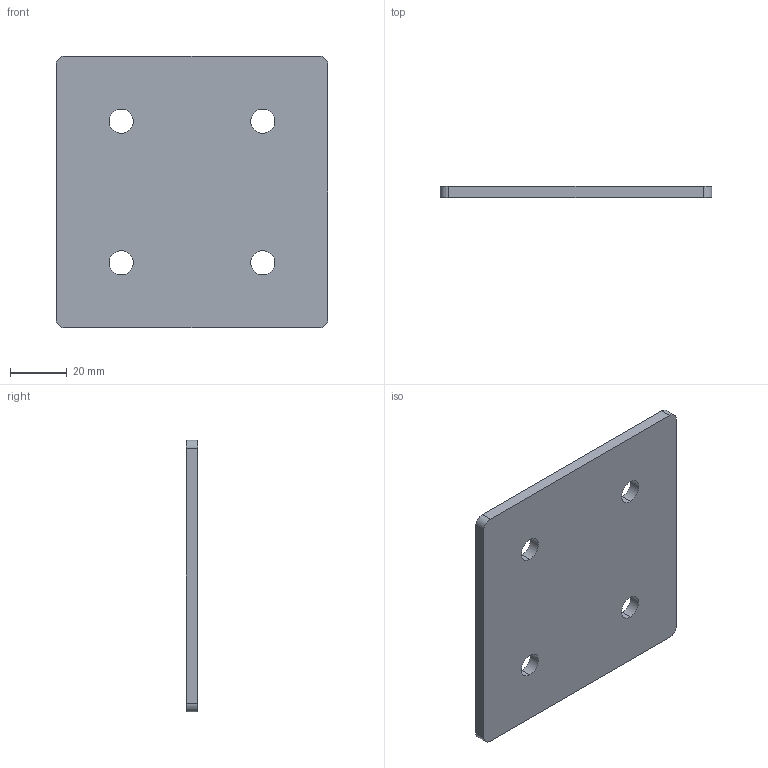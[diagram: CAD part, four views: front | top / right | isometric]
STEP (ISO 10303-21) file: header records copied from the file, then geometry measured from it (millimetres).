
FILE_DESCRIPTION (( 'STEP AP203' ), '1' );
FILE_NAME ('ﾏ-4ﾊ-50.STEP', '2017-03-22T07:31:56', ( 'RosInstal-MKM' ), ( '' ), 'SwSTEP 2.0', 'SolidWorks 2014', '' );
FILE_SCHEMA (( 'CONFIG_CONTROL_DESIGN' ));
Length unit declared in the file: millimetre
Products named in the file (1): ﾏ-4ﾊ-50
Bounding box: 96 x 4 x 96 mm (x, y, z)
Volume: 35922.9 mm3; surface area: 19903.3 mm2
Topology: 1 solids, 1 shells, 18 faces, 48 edges, 32 vertices
Faces by surface type: cylinder 12, plane 6
Entity records: 669 total; most frequent: DIRECTION 110, CARTESIAN_POINT 99, ORIENTED_EDGE 96, EDGE_CURVE 48, AXIS2_PLACEMENT_3D 43, VERTEX_POINT 32, EDGE_LOOP 26, CIRCLE 24
